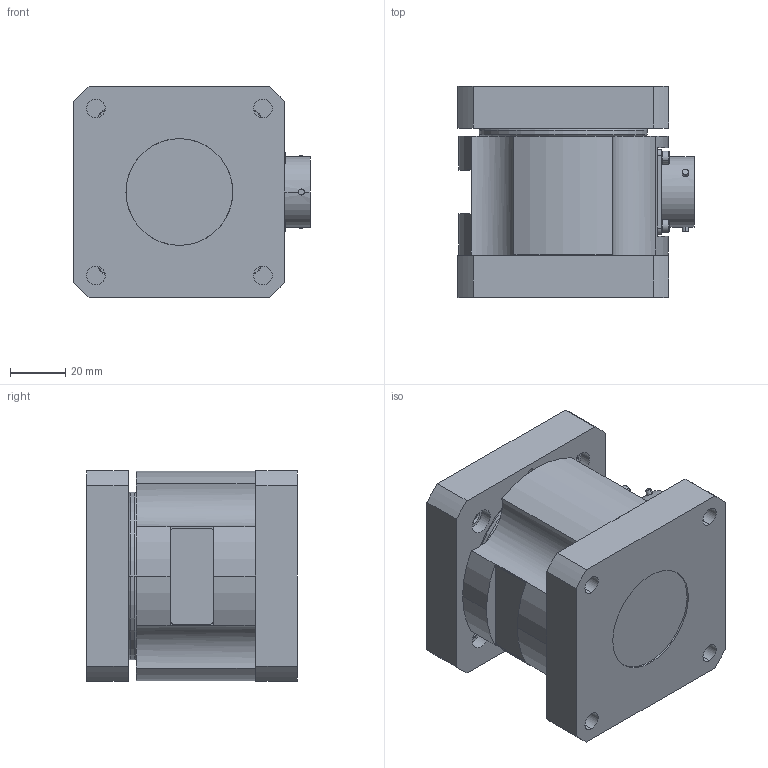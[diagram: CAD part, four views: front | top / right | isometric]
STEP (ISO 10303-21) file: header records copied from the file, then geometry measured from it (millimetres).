
FILE_DESCRIPTION (( 'STEP AP203' ), '1' );
FILE_NAME ('MC3A.STEP', '2023-01-19T15:56:40', ( '' ), ( '' ), 'SwSTEP 2.0', 'SolidWorks 2020', '' );
FILE_SCHEMA (( 'CONFIG_CONTROL_DESIGN' ));
Length unit declared in the file: millimetre
Products named in the file (1): MC3A
Bounding box: 85.34 x 76.2 x 76.2 mm (x, y, z)
Surface area: 51517.4 mm2 (no closed solid volume)
Topology: 0 solids, 14 shells, 446 faces, 1220 edges, 810 vertices
Faces by surface type: cylinder 187, plane 146, cone 76, bspline 28, torus 9
Entity records: 26048 total; most frequent: CARTESIAN_POINT 15197, ORIENTED_EDGE 2241, DIRECTION 2179, EDGE_CURVE 1220, AXIS2_PLACEMENT_3D 868, VERTEX_POINT 810, EDGE_LOOP 530, CIRCLE 449
